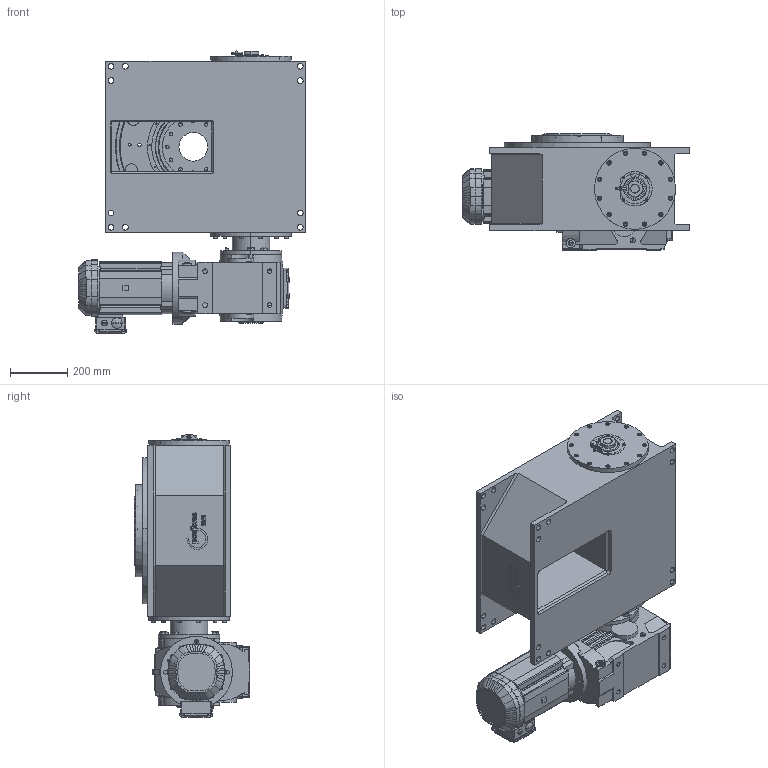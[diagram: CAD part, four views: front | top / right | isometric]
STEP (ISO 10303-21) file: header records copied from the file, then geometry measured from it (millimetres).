
FILE_DESCRIPTION (( 'STEP AP214' ), '1' );
FILE_NAME ('M510_SEW_K87DRN100L4_E1_08.STEP', '2020-06-17T12:39:57', ( '' ), ( '' ), 'SwSTEP 2.0', 'SolidWorks 2020', '' );
FILE_SCHEMA (( 'AUTOMOTIVE_DESIGN' ));
Length unit declared in the file: millimetre
Products named in the file (1): M510_SEW_K87DRN100L4_E1_08
Bounding box: 790 x 403.25 x 982.97 mm (x, y, z)
Surface area: 3073805.6 mm2 (no closed solid volume)
Topology: 0 solids, 107 shells, 1655 faces, 5258 edges, 3641 vertices
Faces by surface type: plane 802, cylinder 563, torus 106, cone 99, bspline 73, sphere 12
Entity records: 86177 total; most frequent: CARTESIAN_POINT 21555, DIRECTION 9747, ORIENTED_EDGE 8809, EDGE_CURVE 5248, VERTEX_POINT 3641, AXIS2_PLACEMENT_3D 3422, LINE 2903, VECTOR 2903
